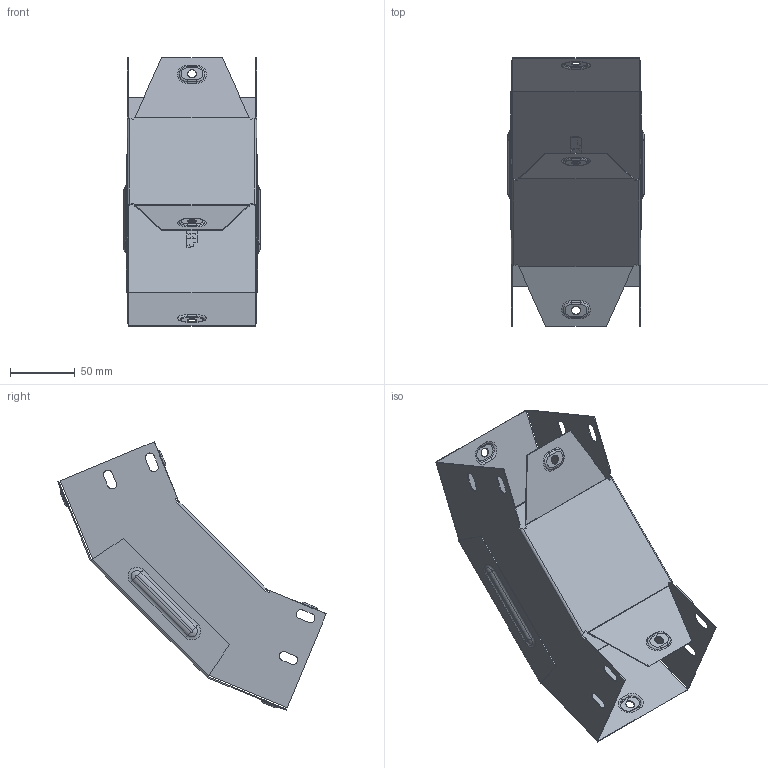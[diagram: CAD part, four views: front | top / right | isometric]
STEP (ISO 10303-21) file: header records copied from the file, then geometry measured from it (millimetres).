
FILE_DESCRIPTION (( 'STEP AP214' ), '1' );
FILE_NAME ('vo4580100_捘.STEP', '2019-06-10T08:18:42', ( '砐錪賧瘔蠈錪 Windows' ), ( '' ), 'SwSTEP 2.0', 'SolidWorks 2018', '' );
FILE_SCHEMA (( 'AUTOMOTIVE_DESIGN' ));
Length unit declared in the file: millimetre
Products named in the file (1): vo4580100_捘
Bounding box: 105.6 x 207.86 x 207.86 mm (x, y, z)
Volume: 67453.6 mm3; surface area: 170706.5 mm2
Topology: 2 solids, 2 shells, 372 faces, 918 edges, 572 vertices
Faces by surface type: plane 173, cylinder 118, torus 64, bspline 17
Entity records: 11622 total; most frequent: CARTESIAN_POINT 2627, DIRECTION 1896, ORIENTED_EDGE 1836, EDGE_CURVE 918, AXIS2_PLACEMENT_3D 672, VERTEX_POINT 572, LINE 552, VECTOR 552
